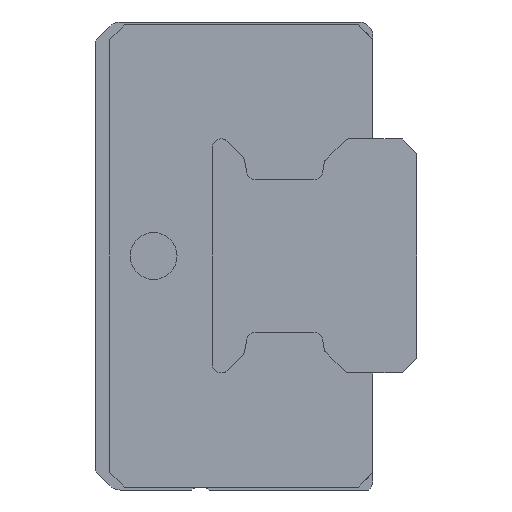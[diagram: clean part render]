
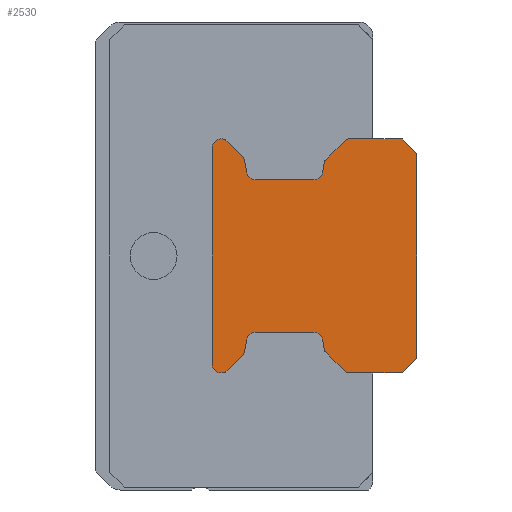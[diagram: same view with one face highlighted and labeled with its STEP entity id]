
A CAD part, left-side view. The second image highlights one B-rep face of the part: STEP entity #2530.
In plain terms, the highlighted planar face has unit normal (-1, 0, 0).
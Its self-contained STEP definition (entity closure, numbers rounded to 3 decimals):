
#49=CIRCLE('',#2669,0.15);
#51=CIRCLE('',#2673,0.15);
#53=CIRCLE('',#2677,0.3);
#55=CIRCLE('',#2681,0.3);
#57=CIRCLE('',#2685,0.15);
#59=CIRCLE('',#2689,0.15);
#65=CIRCLE('',#2701,0.15);
#67=CIRCLE('',#2705,0.15);
#69=CIRCLE('',#2709,0.3);
#71=CIRCLE('',#2713,0.3);
#73=CIRCLE('',#2717,0.15);
#75=CIRCLE('',#2721,0.15);
#77=CIRCLE('',#2725,0.3);
#83=CIRCLE('',#2733,0.3);
#364=ORIENTED_EDGE('',*,*,#916,.F.);
#365=ORIENTED_EDGE('',*,*,#1018,.F.);
#366=ORIENTED_EDGE('',*,*,#1015,.F.);
#367=ORIENTED_EDGE('',*,*,#1008,.F.);
#368=ORIENTED_EDGE('',*,*,#1005,.F.);
#369=ORIENTED_EDGE('',*,*,#1002,.F.);
#370=ORIENTED_EDGE('',*,*,#999,.F.);
#371=ORIENTED_EDGE('',*,*,#996,.F.);
#372=ORIENTED_EDGE('',*,*,#993,.F.);
#373=ORIENTED_EDGE('',*,*,#990,.T.);
#374=ORIENTED_EDGE('',*,*,#987,.F.);
#375=ORIENTED_EDGE('',*,*,#984,.T.);
#376=ORIENTED_EDGE('',*,*,#981,.F.);
#377=ORIENTED_EDGE('',*,*,#978,.F.);
#378=ORIENTED_EDGE('',*,*,#975,.F.);
#379=ORIENTED_EDGE('',*,*,#972,.F.);
#380=ORIENTED_EDGE('',*,*,#969,.F.);
#381=ORIENTED_EDGE('',*,*,#966,.F.);
#382=ORIENTED_EDGE('',*,*,#963,.F.);
#383=ORIENTED_EDGE('',*,*,#956,.F.);
#384=ORIENTED_EDGE('',*,*,#953,.F.);
#385=ORIENTED_EDGE('',*,*,#950,.F.);
#386=ORIENTED_EDGE('',*,*,#947,.F.);
#387=ORIENTED_EDGE('',*,*,#944,.F.);
#388=ORIENTED_EDGE('',*,*,#941,.F.);
#389=ORIENTED_EDGE('',*,*,#938,.T.);
#390=ORIENTED_EDGE('',*,*,#935,.F.);
#391=ORIENTED_EDGE('',*,*,#932,.T.);
#392=ORIENTED_EDGE('',*,*,#929,.F.);
#393=ORIENTED_EDGE('',*,*,#926,.F.);
#394=ORIENTED_EDGE('',*,*,#923,.F.);
#395=ORIENTED_EDGE('',*,*,#920,.F.);
#916=EDGE_CURVE('',#1276,#1277,#1530,.T.);
#920=EDGE_CURVE('',#1277,#1280,#49,.T.);
#923=EDGE_CURVE('',#1280,#1282,#1535,.T.);
#926=EDGE_CURVE('',#1282,#1284,#51,.T.);
#929=EDGE_CURVE('',#1284,#1286,#1539,.T.);
#932=EDGE_CURVE('',#1288,#1286,#53,.T.);
#935=EDGE_CURVE('',#1288,#1290,#1543,.T.);
#938=EDGE_CURVE('',#1292,#1290,#55,.T.);
#941=EDGE_CURVE('',#1292,#1294,#1547,.T.);
#944=EDGE_CURVE('',#1294,#1296,#57,.T.);
#947=EDGE_CURVE('',#1296,#1298,#1551,.T.);
#950=EDGE_CURVE('',#1298,#1300,#59,.T.);
#953=EDGE_CURVE('',#1300,#1302,#1555,.T.);
#956=EDGE_CURVE('',#1302,#1304,#1558,.T.);
#963=EDGE_CURVE('',#1304,#1310,#1561,.T.);
#966=EDGE_CURVE('',#1310,#1312,#1564,.T.);
#969=EDGE_CURVE('',#1312,#1314,#1567,.T.);
#972=EDGE_CURVE('',#1314,#1316,#65,.T.);
#975=EDGE_CURVE('',#1316,#1318,#1571,.T.);
#978=EDGE_CURVE('',#1318,#1320,#67,.T.);
#981=EDGE_CURVE('',#1320,#1322,#1575,.T.);
#984=EDGE_CURVE('',#1324,#1322,#69,.T.);
#987=EDGE_CURVE('',#1324,#1326,#1579,.T.);
#990=EDGE_CURVE('',#1328,#1326,#71,.T.);
#993=EDGE_CURVE('',#1328,#1330,#1583,.T.);
#996=EDGE_CURVE('',#1330,#1332,#73,.T.);
#999=EDGE_CURVE('',#1332,#1334,#1587,.T.);
#1002=EDGE_CURVE('',#1334,#1336,#75,.T.);
#1005=EDGE_CURVE('',#1336,#1338,#1591,.T.);
#1008=EDGE_CURVE('',#1338,#1340,#77,.T.);
#1015=EDGE_CURVE('',#1340,#1346,#1595,.T.);
#1018=EDGE_CURVE('',#1346,#1276,#83,.T.);
#1276=VERTEX_POINT('',#3667);
#1277=VERTEX_POINT('',#3668);
#1280=VERTEX_POINT('',#3676);
#1282=VERTEX_POINT('',#3682);
#1284=VERTEX_POINT('',#3688);
#1286=VERTEX_POINT('',#3694);
#1288=VERTEX_POINT('',#3700);
#1290=VERTEX_POINT('',#3706);
#1292=VERTEX_POINT('',#3712);
#1294=VERTEX_POINT('',#3718);
#1296=VERTEX_POINT('',#3724);
#1298=VERTEX_POINT('',#3730);
#1300=VERTEX_POINT('',#3736);
#1302=VERTEX_POINT('',#3742);
#1304=VERTEX_POINT('',#3748);
#1310=VERTEX_POINT('',#3762);
#1312=VERTEX_POINT('',#3768);
#1314=VERTEX_POINT('',#3774);
#1316=VERTEX_POINT('',#3780);
#1318=VERTEX_POINT('',#3786);
#1320=VERTEX_POINT('',#3792);
#1322=VERTEX_POINT('',#3798);
#1324=VERTEX_POINT('',#3804);
#1326=VERTEX_POINT('',#3810);
#1328=VERTEX_POINT('',#3816);
#1330=VERTEX_POINT('',#3822);
#1332=VERTEX_POINT('',#3828);
#1334=VERTEX_POINT('',#3834);
#1336=VERTEX_POINT('',#3840);
#1338=VERTEX_POINT('',#3846);
#1340=VERTEX_POINT('',#3852);
#1346=VERTEX_POINT('',#3866);
#1530=LINE('',#3666,#1790);
#1535=LINE('',#3681,#1795);
#1539=LINE('',#3693,#1799);
#1543=LINE('',#3705,#1803);
#1547=LINE('',#3717,#1807);
#1551=LINE('',#3729,#1811);
#1555=LINE('',#3741,#1815);
#1558=LINE('',#3747,#1818);
#1561=LINE('',#3761,#1821);
#1564=LINE('',#3767,#1824);
#1567=LINE('',#3773,#1827);
#1571=LINE('',#3785,#1831);
#1575=LINE('',#3797,#1835);
#1579=LINE('',#3809,#1839);
#1583=LINE('',#3821,#1843);
#1587=LINE('',#3833,#1847);
#1591=LINE('',#3845,#1851);
#1595=LINE('',#3865,#1855);
#1790=VECTOR('',#2916,1000.);
#1795=VECTOR('',#2929,1000.);
#1799=VECTOR('',#2941,1000.);
#1803=VECTOR('',#2953,1000.);
#1807=VECTOR('',#2965,1000.);
#1811=VECTOR('',#2977,1000.);
#1815=VECTOR('',#2989,1000.);
#1818=VECTOR('',#2994,1000.);
#1821=VECTOR('',#3007,1000.);
#1824=VECTOR('',#3012,1000.);
#1827=VECTOR('',#3017,1000.);
#1831=VECTOR('',#3029,1000.);
#1835=VECTOR('',#3041,1000.);
#1839=VECTOR('',#3053,1000.);
#1843=VECTOR('',#3065,1000.);
#1847=VECTOR('',#3077,1000.);
#1851=VECTOR('',#3089,1000.);
#1855=VECTOR('',#3109,1000.);
#2091=EDGE_LOOP('',(#364,#365,#366,#367,#368,#369,#370,#371,#372,#373,#374,
#375,#376,#377,#378,#379,#380,#381,#382,#383,#384,#385,#386,#387,#388,#389,
#390,#391,#392,#393,#394,#395));
#2269=FACE_BOUND('',#2091,.T.);
#2429=PLANE('',#2736);
#2530=ADVANCED_FACE('',(#2269),#2429,.F.);
#2669=AXIS2_PLACEMENT_3D('',#3675,#2922,#2923);
#2673=AXIS2_PLACEMENT_3D('',#3687,#2934,#2935);
#2677=AXIS2_PLACEMENT_3D('',#3699,#2946,#2947);
#2681=AXIS2_PLACEMENT_3D('',#3711,#2958,#2959);
#2685=AXIS2_PLACEMENT_3D('',#3723,#2970,#2971);
#2689=AXIS2_PLACEMENT_3D('',#3735,#2982,#2983);
#2701=AXIS2_PLACEMENT_3D('',#3779,#3022,#3023);
#2705=AXIS2_PLACEMENT_3D('',#3791,#3034,#3035);
#2709=AXIS2_PLACEMENT_3D('',#3803,#3046,#3047);
#2713=AXIS2_PLACEMENT_3D('',#3815,#3058,#3059);
#2717=AXIS2_PLACEMENT_3D('',#3827,#3070,#3071);
#2721=AXIS2_PLACEMENT_3D('',#3839,#3082,#3083);
#2725=AXIS2_PLACEMENT_3D('',#3851,#3094,#3095);
#2733=AXIS2_PLACEMENT_3D('',#3871,#3114,#3115);
#2736=AXIS2_PLACEMENT_3D('',#3874,#3120,#3121);
#2916=DIRECTION('',(0.,-1.,0.));
#2922=DIRECTION('',(1.,0.,0.));
#2923=DIRECTION('',(0.,0.,-1.));
#2929=DIRECTION('',(0.,-0.707,-0.707));
#2934=DIRECTION('',(1.,0.,0.));
#2935=DIRECTION('',(0.,0.,-1.));
#2941=DIRECTION('',(0.,-0.174,-0.985));
#2946=DIRECTION('',(1.,0.,0.));
#2947=DIRECTION('',(0.,0.,-1.));
#2953=DIRECTION('',(0.,-1.,0.));
#2958=DIRECTION('',(1.,0.,0.));
#2959=DIRECTION('',(0.,0.,-1.));
#2965=DIRECTION('',(0.,-0.174,0.985));
#2970=DIRECTION('',(1.,0.,0.));
#2971=DIRECTION('',(0.,0.,-1.));
#2977=DIRECTION('',(0.,-0.707,0.707));
#2982=DIRECTION('',(1.,0.,0.));
#2983=DIRECTION('',(0.,0.,-1.));
#2989=DIRECTION('',(0.,-1.,0.));
#2994=DIRECTION('',(0.,-0.707,-0.707));
#3007=DIRECTION('',(0.,0.,-1.));
#3012=DIRECTION('',(0.,0.707,-0.707));
#3017=DIRECTION('',(0.,1.,0.));
#3022=DIRECTION('',(1.,0.,0.));
#3023=DIRECTION('',(0.,0.,-1.));
#3029=DIRECTION('',(0.,0.707,0.707));
#3034=DIRECTION('',(1.,0.,0.));
#3035=DIRECTION('',(0.,0.,-1.));
#3041=DIRECTION('',(0.,0.174,0.985));
#3046=DIRECTION('',(1.,0.,0.));
#3047=DIRECTION('',(0.,0.,-1.));
#3053=DIRECTION('',(0.,1.,0.));
#3058=DIRECTION('',(1.,0.,0.));
#3059=DIRECTION('',(0.,0.,-1.));
#3065=DIRECTION('',(0.,0.174,-0.985));
#3070=DIRECTION('',(1.,0.,0.));
#3071=DIRECTION('',(0.,0.,-1.));
#3077=DIRECTION('',(0.,0.707,-0.707));
#3082=DIRECTION('',(1.,0.,0.));
#3083=DIRECTION('',(0.,0.,-1.));
#3089=DIRECTION('',(0.,1.,0.));
#3094=DIRECTION('',(1.,0.,0.));
#3095=DIRECTION('',(0.,0.,-1.));
#3109=DIRECTION('',(0.,0.,1.));
#3114=DIRECTION('',(1.,0.,0.));
#3115=DIRECTION('',(0.,0.,-1.));
#3120=DIRECTION('',(1.,0.,0.));
#3121=DIRECTION('',(0.,0.,-1.));
#3666=CARTESIAN_POINT('',(-10.,6.7,4.));
#3667=CARTESIAN_POINT('',(-10.,6.7,4.));
#3668=CARTESIAN_POINT('',(-10.,6.632,4.));
#3675=CARTESIAN_POINT('',(-10.,6.632,3.85));
#3676=CARTESIAN_POINT('',(-10.,6.526,3.956));
#3681=CARTESIAN_POINT('',(-10.,6.526,3.956));
#3682=CARTESIAN_POINT('',(-10.,5.932,3.362));
#3687=CARTESIAN_POINT('',(-10.,6.038,3.256));
#3688=CARTESIAN_POINT('',(-10.,5.89,3.282));
#3693=CARTESIAN_POINT('',(-10.,5.89,3.282));
#3694=CARTESIAN_POINT('',(-10.,5.814,2.848));
#3699=CARTESIAN_POINT('',(-10.,5.518,2.9));
#3700=CARTESIAN_POINT('',(-10.,5.518,2.6));
#3705=CARTESIAN_POINT('',(-10.,5.518,2.6));
#3706=CARTESIAN_POINT('',(-10.,3.522,2.6));
#3711=CARTESIAN_POINT('',(-10.,3.522,2.9));
#3712=CARTESIAN_POINT('',(-10.,3.226,2.848));
#3717=CARTESIAN_POINT('',(-10.,3.226,2.848));
#3718=CARTESIAN_POINT('',(-10.,3.165,3.197));
#3723=CARTESIAN_POINT('',(-10.,3.017,3.171));
#3724=CARTESIAN_POINT('',(-10.,3.123,3.277));
#3729=CARTESIAN_POINT('',(-10.,3.123,3.277));
#3730=CARTESIAN_POINT('',(-10.,2.444,3.956));
#3735=CARTESIAN_POINT('',(-10.,2.338,3.85));
#3736=CARTESIAN_POINT('',(-10.,2.338,4.));
#3741=CARTESIAN_POINT('',(-10.,2.338,4.));
#3742=CARTESIAN_POINT('',(-10.,0.5,4.));
#3747=CARTESIAN_POINT('',(-10.,0.5,4.));
#3748=CARTESIAN_POINT('',(-10.,0.,3.5));
#3761=CARTESIAN_POINT('',(-10.,0.,3.5));
#3762=CARTESIAN_POINT('',(-10.,0.,-3.5));
#3767=CARTESIAN_POINT('',(-10.,0.,-3.5));
#3768=CARTESIAN_POINT('',(-10.,0.5,-4.));
#3773=CARTESIAN_POINT('',(-10.,0.5,-4.));
#3774=CARTESIAN_POINT('',(-10.,2.338,-4.));
#3779=CARTESIAN_POINT('',(-10.,2.338,-3.85));
#3780=CARTESIAN_POINT('',(-10.,2.444,-3.956));
#3785=CARTESIAN_POINT('',(-10.,2.444,-3.956));
#3786=CARTESIAN_POINT('',(-10.,3.123,-3.277));
#3791=CARTESIAN_POINT('',(-10.,3.017,-3.171));
#3792=CARTESIAN_POINT('',(-10.,3.165,-3.197));
#3797=CARTESIAN_POINT('',(-10.,3.165,-3.197));
#3798=CARTESIAN_POINT('',(-10.,3.226,-2.848));
#3803=CARTESIAN_POINT('',(-10.,3.522,-2.9));
#3804=CARTESIAN_POINT('',(-10.,3.522,-2.6));
#3809=CARTESIAN_POINT('',(-10.,3.522,-2.6));
#3810=CARTESIAN_POINT('',(-10.,5.518,-2.6));
#3815=CARTESIAN_POINT('',(-10.,5.518,-2.9));
#3816=CARTESIAN_POINT('',(-10.,5.814,-2.848));
#3821=CARTESIAN_POINT('',(-10.,5.814,-2.848));
#3822=CARTESIAN_POINT('',(-10.,5.89,-3.282));
#3827=CARTESIAN_POINT('',(-10.,6.038,-3.256));
#3828=CARTESIAN_POINT('',(-10.,5.932,-3.362));
#3833=CARTESIAN_POINT('',(-10.,5.932,-3.362));
#3834=CARTESIAN_POINT('',(-10.,6.526,-3.956));
#3839=CARTESIAN_POINT('',(-10.,6.632,-3.85));
#3840=CARTESIAN_POINT('',(-10.,6.632,-4.));
#3845=CARTESIAN_POINT('',(-10.,6.632,-4.));
#3846=CARTESIAN_POINT('',(-10.,6.7,-4.));
#3851=CARTESIAN_POINT('',(-10.,6.7,-3.7));
#3852=CARTESIAN_POINT('',(-10.,7.,-3.7));
#3865=CARTESIAN_POINT('',(-10.,7.,-3.7));
#3866=CARTESIAN_POINT('',(-10.,7.,3.7));
#3871=CARTESIAN_POINT('',(-10.,6.7,3.7));
#3874=CARTESIAN_POINT('',(-10.,6.632,3.85));
